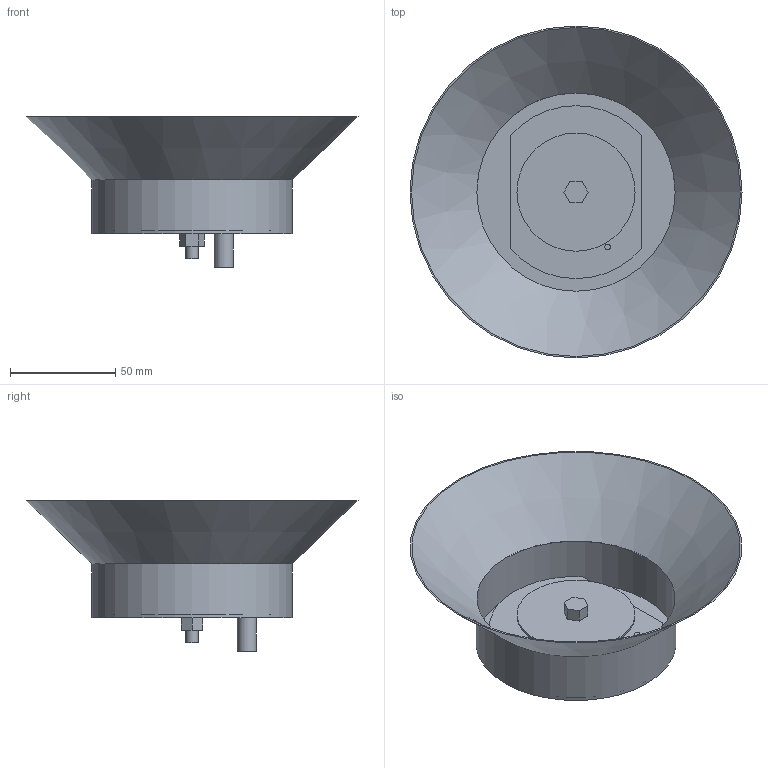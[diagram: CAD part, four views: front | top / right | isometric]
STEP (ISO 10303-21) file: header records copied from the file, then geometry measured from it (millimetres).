
FILE_DESCRIPTION((''),'2;1');
FILE_NAME('D:\Autodesk Invertor 2011\Projects2014\Antenna\Patch2100\P2100BaxJR.stp','2014-07-09T22:31:30',('Evgeny'),(''),'Autodesk Inventor 2011','Autodesk Inventor 2011','');
FILE_SCHEMA(('AUTOMOTIVE_DESIGN { 1 0 10303 214 1 1 1 1 }'));
Length unit declared in the file: millimetre
Products named in the file (1): P2100BaxJR
Bounding box: 157.44 x 157.44 x 71.5 mm (x, y, z)
Volume: 31879.2 mm3; surface area: 79300.7 mm2
Topology: 1 solids, 1 shells, 41 faces, 84 edges, 56 vertices
Faces by surface type: plane 27, cylinder 12, cone 2
Full cylindrical faces by diameter (mm): 2.7 x2, 6 x1, 8 x3, 9 x1, 56 x1, 94 x1, 95 x1
Entity records: 1036 total; most frequent: DIRECTION 180, CARTESIAN_POINT 166, ORIENTED_EDGE 140, EDGE_CURVE 70, AXIS2_PLACEMENT_3D 68, EDGE_LOOP 66, VERTEX_POINT 54, VECTOR 44
